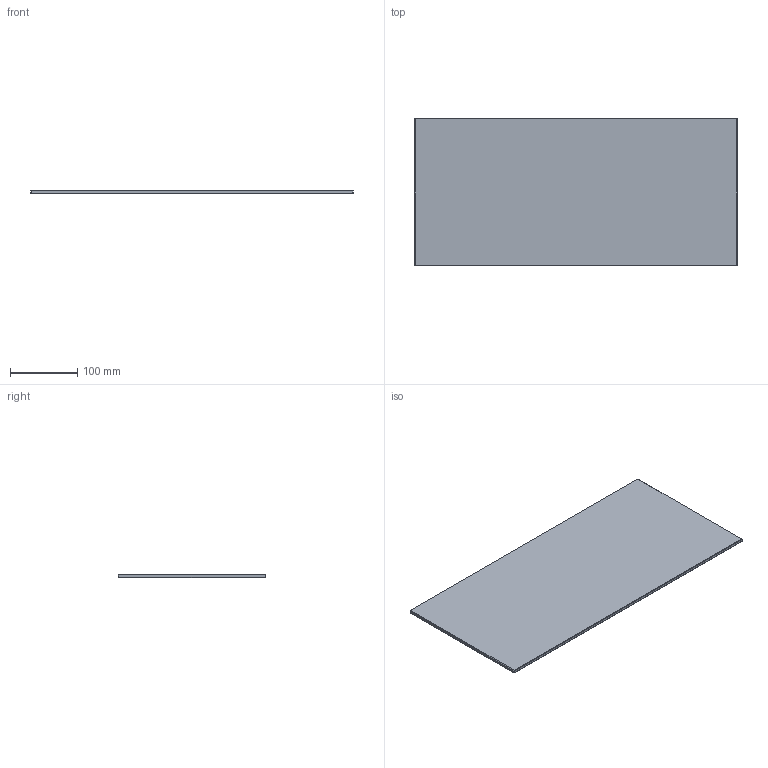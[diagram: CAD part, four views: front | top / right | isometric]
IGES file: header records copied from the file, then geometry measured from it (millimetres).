
Start section: 3D InterOp IGES (v. 2018 1.0.2), Spatial Corp. Copyright (c) 1999-2017.
Global section: file name: Tabette verre.igs; native system: Spatial Corp.; preprocessor: 3D InterOp GENERIC/IGES 3.0; author: Noname; organization: Noname; date: 20190430.084318; units: millimetre
Bounding box: 480 x 220 x 5 mm (x, y, z)
Surface area: 216546.6 mm2 (no closed solid volume)
Topology: 0 solids, 0 shells, 18 faces, 96 edges, 96 vertices
Faces by surface type: extrusion 18
